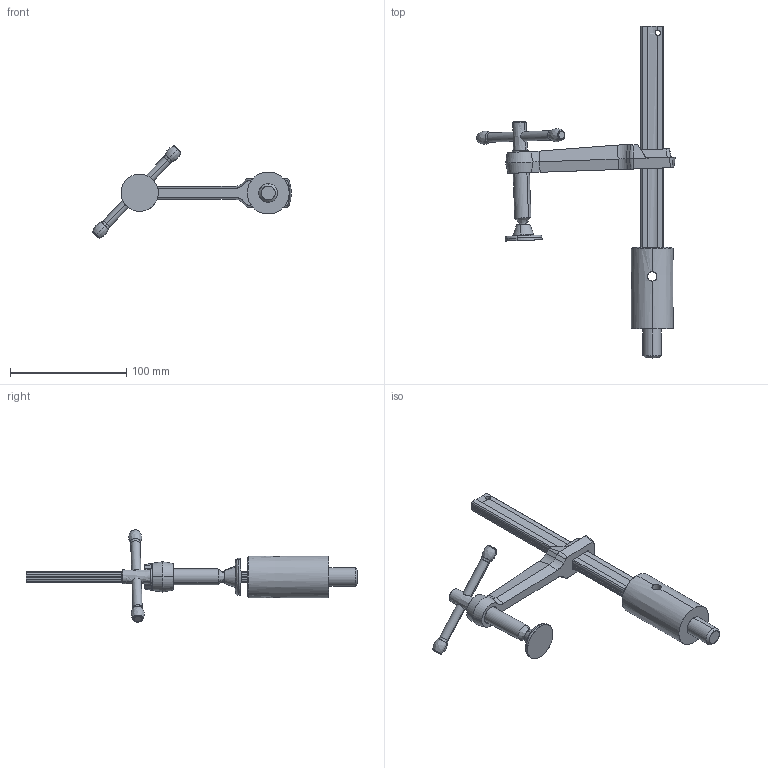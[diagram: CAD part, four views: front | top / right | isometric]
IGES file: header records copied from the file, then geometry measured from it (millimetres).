
Start section: SolidWorks IGES file using analytic representation for surfaces
Global section: file name: C:\Users\Yang Lang\Desktop\CAD\IGS\UEN6200.IGS; native system: SolidWorks 2014; preprocessor: SolidWorks 2014; author: Yang Lang; date: 180712.162104; units: millimetre
Bounding box: 170.51 x 285 x 79.23 mm (x, y, z)
Surface area: 50542.1 mm2 (no closed solid volume)
Topology: 0 solids, 0 shells, 149 faces, 2275 edges, 2272 vertices
Faces by surface type: revolution 78, bspline 71
